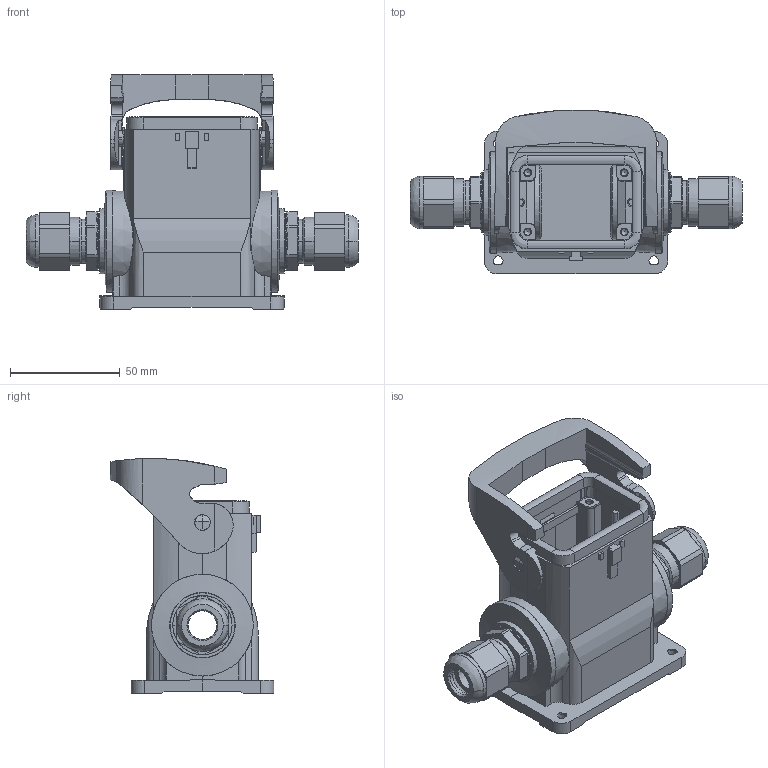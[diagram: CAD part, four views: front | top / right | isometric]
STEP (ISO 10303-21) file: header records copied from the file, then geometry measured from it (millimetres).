
FILE_DESCRIPTION(/* description */ (''),/* implementation_level */ '2;1');
FILE_NAME(/* name */ '100765983ugm000_b.stp',/* time_stamp */ '2022-03-12T06:59:26+01:00',/* author */ (''),/* organization */ (''),/* preprocessor_version */ 'ST-DEVELOPER v16.7',/* originating_system */ 'SIEMENS PLM Software NX 1911',/* authorisation */ '');
FILE_SCHEMA (('AUTOMOTIVE_DESIGN { 1 0 10303 214 3 1 1 1 }'));
Length unit declared in the file: millimetre
Products named in the file (1): 100765983ugm000_b
Bounding box: 151.3 x 74.5 x 107.09 mm (x, y, z)
Volume: 196336.2 mm3; surface area: 70387.7 mm2
Topology: 2 solids, 2 shells, 638 faces, 1848 edges, 1328 vertices
Faces by surface type: plane 339, cylinder 192, cone 78, torus 16, bspline 12, extrusion 1
Full cylindrical faces by diameter (mm): 3 x4, 3.4 x4, 3.5 x4, 7.2 x2, 20 x2, 30 x2, 46.4 x2
Entity records: 22762 total; most frequent: CARTESIAN_POINT 4963, DIRECTION 3438, ORIENTED_EDGE 3418, EDGE_CURVE 1709, AXIS2_PLACEMENT_3D 1180, VERTEX_POINT 1153, VECTOR 1078, LINE 1077
